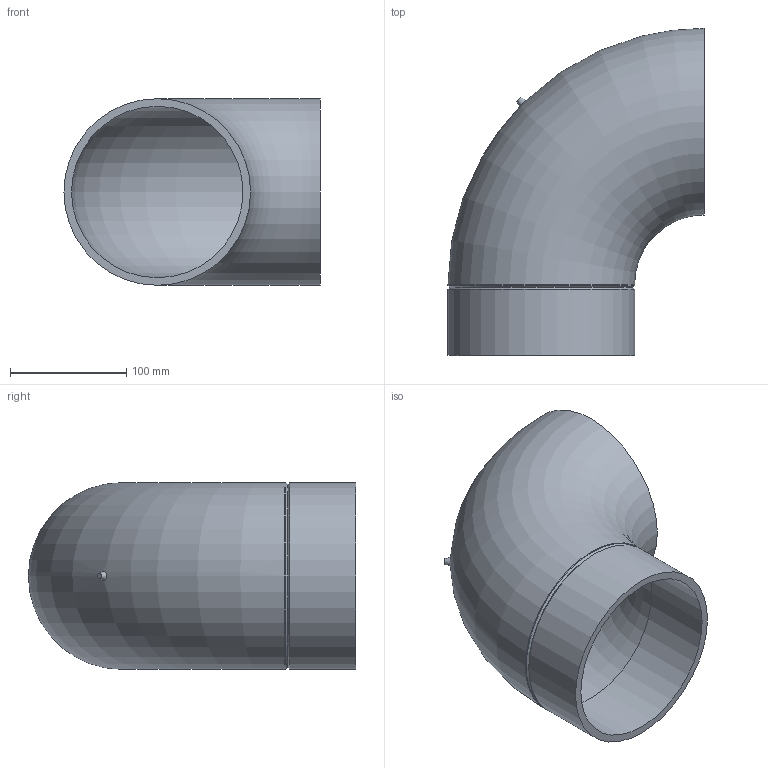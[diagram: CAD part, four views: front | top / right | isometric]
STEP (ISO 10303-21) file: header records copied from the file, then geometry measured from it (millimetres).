
FILE_DESCRIPTION(/* description */ (''),/* implementation_level */ '2;1');
FILE_NAME(/* name */ 'Z:\Geberit\Export\NewStep\369055.stp',/* time_stamp */ '2014-04-02T08:01:45+02:00',/* author */ ('bruh'),/* organization */ (''),/* preprocessor_version */ 'ST-DEVELOPER v15.2',/* originating_system */ 'Autodesk Inventor 2014',/* authorisation */ '');
FILE_SCHEMA (('AUTOMOTIVE_DESIGN { 1 0 10303 214 3 1 1 }'));
Length unit declared in the file: millimetre
Products named in the file (1): 369055
Bounding box: 220.24 x 281.24 x 160.48 mm (x, y, z)
Volume: 886052.9 mm3; surface area: 278766.1 mm2
Topology: 1 solids, 1 shells, 11 faces, 22 edges, 13 vertices
Faces by surface type: cone 3, plane 3, cylinder 3, torus 2
Full cylindrical faces by diameter (mm): 147.42 x1, 160.48 x2
Entity records: 302 total; most frequent: CARTESIAN_POINT 79, DIRECTION 44, EDGE_LOOP 22, ORIENTED_EDGE 22, AXIS2_PLACEMENT_3D 22, FACE_BOUND 13, STYLED_ITEM 12, VERTEX_POINT 11
